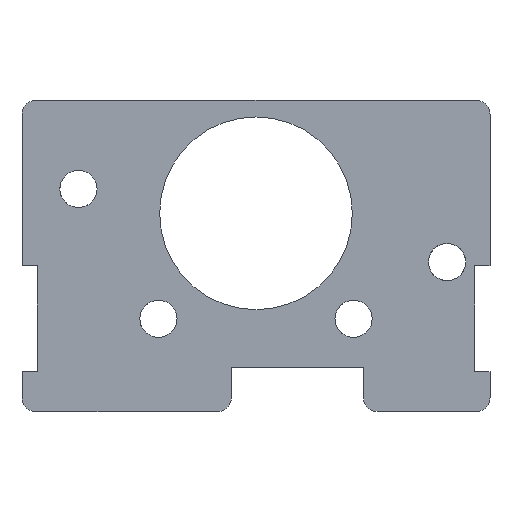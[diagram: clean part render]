
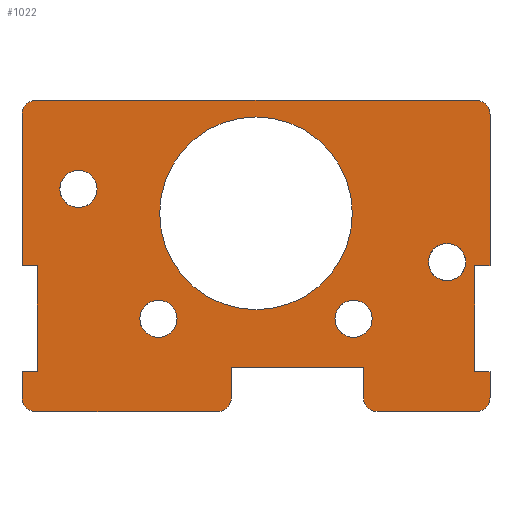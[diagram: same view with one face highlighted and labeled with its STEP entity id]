
A CAD part, front view. The second image highlights one B-rep face of the part: STEP entity #1022.
In plain terms, the highlighted planar face has unit normal (0, -1, 0).
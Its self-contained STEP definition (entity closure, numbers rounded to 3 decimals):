
#48=PLANE('',#1091);
#84=VECTOR('',#1164,1.);
#101=VECTOR('',#1207,1.);
#103=VECTOR('',#1210,1.);
#104=VECTOR('',#1212,1.);
#105=VECTOR('',#1215,1.);
#106=VECTOR('',#1216,1.);
#107=VECTOR('',#1217,1.);
#108=VECTOR('',#1218,1.);
#109=VECTOR('',#1219,1.);
#110=VECTOR('',#1222,1.);
#111=VECTOR('',#1225,1.);
#112=VECTOR('',#1226,1.);
#113=VECTOR('',#1227,1.);
#114=VECTOR('',#1228,1.);
#115=VECTOR('',#1229,1.);
#187=LINE('',#1396,#84);
#204=LINE('',#1453,#101);
#206=LINE('',#1457,#103);
#207=LINE('',#1459,#104);
#208=LINE('',#1463,#105);
#209=LINE('',#1465,#106);
#210=LINE('',#1467,#107);
#211=LINE('',#1469,#108);
#212=LINE('',#1471,#109);
#213=LINE('',#1475,#110);
#214=LINE('',#1479,#111);
#215=LINE('',#1481,#112);
#216=LINE('',#1483,#113);
#217=LINE('',#1485,#114);
#218=LINE('',#1487,#115);
#286=VERTEX_POINT('',#1384);
#287=VERTEX_POINT('',#1385);
#291=VERTEX_POINT('',#1395);
#316=VERTEX_POINT('',#1448);
#317=VERTEX_POINT('',#1450);
#318=VERTEX_POINT('',#1454);
#319=VERTEX_POINT('',#1460);
#320=VERTEX_POINT('',#1462);
#321=VERTEX_POINT('',#1464);
#322=VERTEX_POINT('',#1466);
#323=VERTEX_POINT('',#1468);
#324=VERTEX_POINT('',#1470);
#325=VERTEX_POINT('',#1472);
#326=VERTEX_POINT('',#1474);
#327=VERTEX_POINT('',#1476);
#328=VERTEX_POINT('',#1478);
#329=VERTEX_POINT('',#1480);
#330=VERTEX_POINT('',#1482);
#331=VERTEX_POINT('',#1484);
#332=VERTEX_POINT('',#1486);
#333=VERTEX_POINT('',#1488);
#334=VERTEX_POINT('',#1490);
#335=VERTEX_POINT('',#1492);
#336=VERTEX_POINT('',#1494);
#337=VERTEX_POINT('',#1496);
#338=VERTEX_POINT('',#1498);
#339=VERTEX_POINT('',#1500);
#388=CIRCLE('',#1073,1.27);
#400=CIRCLE('',#1088,1.27);
#401=CIRCLE('',#1092,1.27);
#402=CIRCLE('',#1093,1.27);
#403=CIRCLE('',#1094,1.27);
#404=CIRCLE('',#1095,1.27);
#405=CIRCLE('',#1096,1.715);
#406=CIRCLE('',#1097,1.715);
#407=CIRCLE('',#1098,8.89);
#408=CIRCLE('',#1099,1.715);
#409=CIRCLE('',#1100,1.715);
#416=EDGE_CURVE('',#286,#287,#388,.T.);
#422=EDGE_CURVE('',#286,#291,#187,.T.);
#449=EDGE_CURVE('',#316,#317,#400,.T.);
#451=EDGE_CURVE('',#318,#317,#204,.T.);
#453=EDGE_CURVE('',#291,#318,#206,.T.);
#454=EDGE_CURVE('',#316,#319,#207,.T.);
#455=EDGE_CURVE('',#320,#319,#401,.T.);
#456=EDGE_CURVE('',#320,#321,#208,.T.);
#457=EDGE_CURVE('',#321,#322,#209,.T.);
#458=EDGE_CURVE('',#322,#323,#210,.T.);
#459=EDGE_CURVE('',#323,#324,#211,.T.);
#460=EDGE_CURVE('',#324,#325,#212,.T.);
#461=EDGE_CURVE('',#326,#325,#402,.T.);
#462=EDGE_CURVE('',#326,#327,#213,.T.);
#463=EDGE_CURVE('',#328,#327,#403,.T.);
#464=EDGE_CURVE('',#328,#329,#214,.T.);
#465=EDGE_CURVE('',#329,#330,#215,.T.);
#466=EDGE_CURVE('',#330,#331,#216,.T.);
#467=EDGE_CURVE('',#331,#332,#217,.T.);
#468=EDGE_CURVE('',#332,#333,#218,.T.);
#469=EDGE_CURVE('',#334,#333,#404,.T.);
#470=EDGE_CURVE('',#334,#287,#207,.T.);
#471=EDGE_CURVE('',#335,#335,#405,.T.);
#472=EDGE_CURVE('',#336,#336,#406,.T.);
#473=EDGE_CURVE('',#337,#337,#407,.T.);
#474=EDGE_CURVE('',#338,#338,#408,.T.);
#475=EDGE_CURVE('',#339,#339,#409,.T.);
#611=ORIENTED_EDGE('',*,*,#416,.F.);
#612=ORIENTED_EDGE('',*,*,#422,.T.);
#613=ORIENTED_EDGE('',*,*,#453,.T.);
#614=ORIENTED_EDGE('',*,*,#451,.T.);
#615=ORIENTED_EDGE('',*,*,#449,.F.);
#616=ORIENTED_EDGE('',*,*,#454,.T.);
#617=ORIENTED_EDGE('',*,*,#455,.F.);
#618=ORIENTED_EDGE('',*,*,#456,.T.);
#619=ORIENTED_EDGE('',*,*,#457,.T.);
#620=ORIENTED_EDGE('',*,*,#458,.T.);
#621=ORIENTED_EDGE('',*,*,#459,.T.);
#622=ORIENTED_EDGE('',*,*,#460,.T.);
#623=ORIENTED_EDGE('',*,*,#461,.F.);
#624=ORIENTED_EDGE('',*,*,#462,.T.);
#625=ORIENTED_EDGE('',*,*,#463,.F.);
#626=ORIENTED_EDGE('',*,*,#464,.T.);
#627=ORIENTED_EDGE('',*,*,#465,.T.);
#628=ORIENTED_EDGE('',*,*,#466,.T.);
#629=ORIENTED_EDGE('',*,*,#467,.T.);
#630=ORIENTED_EDGE('',*,*,#468,.T.);
#631=ORIENTED_EDGE('',*,*,#469,.F.);
#632=ORIENTED_EDGE('',*,*,#470,.T.);
#633=ORIENTED_EDGE('',*,*,#471,.T.);
#634=ORIENTED_EDGE('',*,*,#472,.T.);
#635=ORIENTED_EDGE('',*,*,#473,.T.);
#636=ORIENTED_EDGE('',*,*,#474,.T.);
#637=ORIENTED_EDGE('',*,*,#475,.T.);
#871=EDGE_LOOP('',(#611,#612,#613,#614,#615,#616,#617,#618,#619,#620,#621,
#622,#623,#624,#625,#626,#627,#628,#629,#630,#631,#632));
#872=EDGE_LOOP('',(#633));
#873=EDGE_LOOP('',(#634));
#874=EDGE_LOOP('',(#635));
#875=EDGE_LOOP('',(#636));
#876=EDGE_LOOP('',(#637));
#949=FACE_BOUND('',#871,.T.);
#950=FACE_BOUND('',#872,.T.);
#951=FACE_BOUND('',#873,.T.);
#952=FACE_BOUND('',#874,.T.);
#953=FACE_BOUND('',#875,.T.);
#954=FACE_BOUND('',#876,.T.);
#1022=ADVANCED_FACE('',(#949,#950,#951,#952,#953,#954),#48,.F.);
#1073=AXIS2_PLACEMENT_3D('',#1383,#1155,#1156);
#1088=AXIS2_PLACEMENT_3D('',#1449,#1203,#1204);
#1091=AXIS2_PLACEMENT_3D('',#1458,#1211,$);
#1092=AXIS2_PLACEMENT_3D('',#1461,#1213,#1214);
#1093=AXIS2_PLACEMENT_3D('',#1473,#1220,#1221);
#1094=AXIS2_PLACEMENT_3D('',#1477,#1223,#1224);
#1095=AXIS2_PLACEMENT_3D('',#1489,#1230,#1231);
#1096=AXIS2_PLACEMENT_3D('',#1491,#1232,#1233);
#1097=AXIS2_PLACEMENT_3D('',#1493,#1234,#1235);
#1098=AXIS2_PLACEMENT_3D('',#1495,#1236,#1237);
#1099=AXIS2_PLACEMENT_3D('',#1497,#1238,#1239);
#1100=AXIS2_PLACEMENT_3D('',#1499,#1240,#1241);
#1155=DIRECTION('',(0.,1.,0.));
#1156=DIRECTION('',(0.898,0.,-0.898));
#1164=DIRECTION('',(0.,0.,1.));
#1203=DIRECTION('',(0.,1.,0.));
#1204=DIRECTION('',(-0.898,0.,-0.898));
#1207=DIRECTION('',(0.,0.,-1.));
#1210=DIRECTION('',(1.,0.,0.));
#1211=DIRECTION('',(0.,1.,0.));
#1212=DIRECTION('',(1.,0.,0.));
#1213=DIRECTION('',(0.,1.,0.));
#1214=DIRECTION('',(0.898,0.,-0.898));
#1215=DIRECTION('',(0.,0.,1.));
#1216=DIRECTION('',(-1.,0.,0.));
#1217=DIRECTION('',(0.,0.,1.));
#1218=DIRECTION('',(1.,0.,0.));
#1219=DIRECTION('',(0.,0.,1.));
#1220=DIRECTION('',(0.,1.,0.));
#1221=DIRECTION('',(0.898,0.,0.898));
#1222=DIRECTION('',(-1.,0.,0.));
#1223=DIRECTION('',(0.,1.,0.));
#1224=DIRECTION('',(-0.898,0.,0.898));
#1225=DIRECTION('',(0.,0.,-1.));
#1226=DIRECTION('',(1.,0.,0.));
#1227=DIRECTION('',(0.,0.,-1.));
#1228=DIRECTION('',(-1.,0.,0.));
#1229=DIRECTION('',(0.,0.,-1.));
#1230=DIRECTION('',(0.,1.,0.));
#1231=DIRECTION('',(-0.898,0.,-0.898));
#1232=DIRECTION('',(0.,1.,0.));
#1233=DIRECTION('',(1.715,0.,0.));
#1234=DIRECTION('',(0.,1.,0.));
#1235=DIRECTION('',(1.715,0.,0.));
#1236=DIRECTION('',(0.,1.,0.));
#1237=DIRECTION('',(8.89,0.,0.));
#1238=DIRECTION('',(0.,1.,0.));
#1239=DIRECTION('',(1.715,0.,0.));
#1240=DIRECTION('',(0.,1.,0.));
#1241=DIRECTION('',(1.715,0.,0.));
#1383=CARTESIAN_POINT('',(-3.556,14.542,-16.764));
#1384=CARTESIAN_POINT('',(-2.286,14.542,-16.764));
#1385=CARTESIAN_POINT('',(-3.556,14.542,-18.034));
#1395=CARTESIAN_POINT('',(-2.286,14.542,-13.97));
#1396=CARTESIAN_POINT('',(-2.286,14.542,-10.533));
#1448=CARTESIAN_POINT('',(11.176,14.542,-18.034));
#1449=CARTESIAN_POINT('',(11.176,14.542,-16.764));
#1450=CARTESIAN_POINT('',(9.906,14.542,-16.764));
#1453=CARTESIAN_POINT('',(9.906,14.542,-10.533));
#1454=CARTESIAN_POINT('',(9.906,14.542,-13.97));
#1457=CARTESIAN_POINT('',(1.905,14.542,-13.97));
#1458=CARTESIAN_POINT('',(0.,14.542,-3.899));
#1459=CARTESIAN_POINT('',(-21.59,14.542,-18.034));
#1460=CARTESIAN_POINT('',(20.32,14.542,-18.034));
#1461=CARTESIAN_POINT('',(20.32,14.542,-16.764));
#1462=CARTESIAN_POINT('',(21.59,14.542,-16.764));
#1463=CARTESIAN_POINT('',(21.59,14.542,-18.034));
#1464=CARTESIAN_POINT('',(21.59,14.542,-14.351));
#1465=CARTESIAN_POINT('',(21.59,14.542,-14.351));
#1466=CARTESIAN_POINT('',(20.193,14.542,-14.351));
#1467=CARTESIAN_POINT('',(20.193,14.542,-14.351));
#1468=CARTESIAN_POINT('',(20.193,14.542,-4.572));
#1469=CARTESIAN_POINT('',(20.193,14.542,-4.572));
#1470=CARTESIAN_POINT('',(21.59,14.542,-4.572));
#1471=CARTESIAN_POINT('',(21.59,14.542,-4.572));
#1472=CARTESIAN_POINT('',(21.59,14.542,9.398));
#1473=CARTESIAN_POINT('',(20.32,14.542,9.398));
#1474=CARTESIAN_POINT('',(20.32,14.542,10.668));
#1475=CARTESIAN_POINT('',(21.59,14.542,10.668));
#1476=CARTESIAN_POINT('',(-20.32,14.542,10.668));
#1477=CARTESIAN_POINT('',(-20.32,14.542,9.398));
#1478=CARTESIAN_POINT('',(-21.59,14.542,9.398));
#1479=CARTESIAN_POINT('',(-21.59,14.542,10.668));
#1480=CARTESIAN_POINT('',(-21.59,14.542,-4.572));
#1481=CARTESIAN_POINT('',(-21.59,14.542,-4.572));
#1482=CARTESIAN_POINT('',(-20.193,14.542,-4.572));
#1483=CARTESIAN_POINT('',(-20.193,14.542,-4.572));
#1484=CARTESIAN_POINT('',(-20.193,14.542,-14.351));
#1485=CARTESIAN_POINT('',(-20.193,14.542,-14.351));
#1486=CARTESIAN_POINT('',(-21.59,14.542,-14.351));
#1487=CARTESIAN_POINT('',(-21.59,14.542,-14.351));
#1488=CARTESIAN_POINT('',(-21.59,14.542,-16.764));
#1489=CARTESIAN_POINT('',(-20.32,14.542,-16.764));
#1490=CARTESIAN_POINT('',(-20.32,14.542,-18.034));
#1491=CARTESIAN_POINT('',(9.,14.542,-9.474));
#1492=CARTESIAN_POINT('',(10.715,14.542,-9.474));
#1493=CARTESIAN_POINT('',(-9.,14.542,-9.474));
#1494=CARTESIAN_POINT('',(-7.285,14.542,-9.474));
#1495=CARTESIAN_POINT('',(0.,14.542,0.254));
#1496=CARTESIAN_POINT('',(8.89,14.542,0.254));
#1497=CARTESIAN_POINT('',(-16.383,14.542,2.502));
#1498=CARTESIAN_POINT('',(-18.098,14.542,2.502));
#1499=CARTESIAN_POINT('',(17.628,14.542,-4.242));
#1500=CARTESIAN_POINT('',(15.913,14.542,-4.242));
